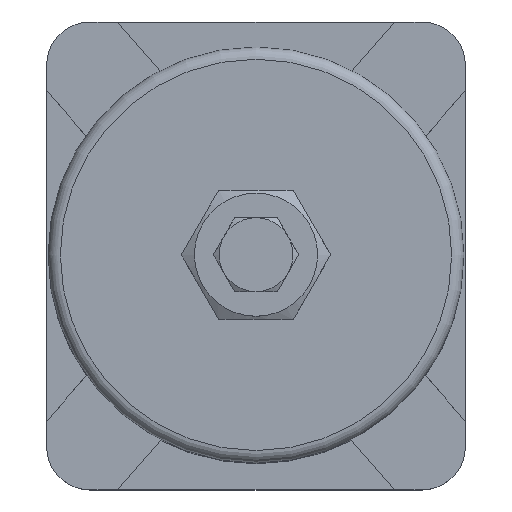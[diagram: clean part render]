
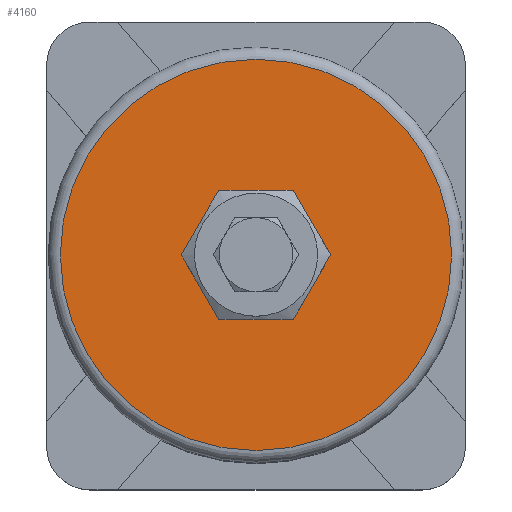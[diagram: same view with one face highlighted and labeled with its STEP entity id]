
A CAD part, top view. The second image highlights one B-rep face of the part: STEP entity #4160.
In plain terms, the highlighted planar face has unit normal (0, 0, 1).
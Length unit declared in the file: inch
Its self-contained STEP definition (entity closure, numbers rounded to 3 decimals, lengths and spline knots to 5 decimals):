
#1006=PLANE('',#4449);
#1087=FACE_BOUND('',#1544,.T.);
#1263=FACE_OUTER_BOUND('',#1543,.T.);
#1543=EDGE_LOOP('',(#3413));
#1544=EDGE_LOOP('',(#3414));
#1687=CIRCLE('',#4434,0.4375);
#1693=CIRCLE('',#4448,1.9863);
#1988=VERTEX_POINT('',#6394);
#1994=VERTEX_POINT('',#6414);
#2480=EDGE_CURVE('',#1988,#1988,#1687,.T.);
#2486=EDGE_CURVE('',#1994,#1994,#1693,.T.);
#3413=ORIENTED_EDGE('',*,*,#2486,.T.);
#3414=ORIENTED_EDGE('',*,*,#2480,.T.);
#4160=ADVANCED_FACE('',(#1263,#1087),#1006,.T.);
#4434=AXIS2_PLACEMENT_3D('',#6395,#5223,#5224);
#4448=AXIS2_PLACEMENT_3D('',#6415,#5251,#5252);
#4449=AXIS2_PLACEMENT_3D('',#6416,#5253,#5254);
#5223=DIRECTION('center_axis',(0.,0.,
-1.));
#5224=DIRECTION('ref_axis',(0.,-1.,0.));
#5251=DIRECTION('center_axis',(0.,0.,
1.));
#5252=DIRECTION('ref_axis',(-1.,0.,0.));
#5253=DIRECTION('center_axis',(0.,0.,
1.));
#5254=DIRECTION('ref_axis',(0.,-1.,0.));
#6394=CARTESIAN_POINT('',(0.,-0.4375,6.5625));
#6395=CARTESIAN_POINT('Origin',(0.,0.,
6.5625));
#6414=CARTESIAN_POINT('',(-1.9863,0.,6.5625));
#6415=CARTESIAN_POINT('Origin',(0.,0.,
6.5625));
#6416=CARTESIAN_POINT('Origin',(-0.99315,0.,
6.5625));
